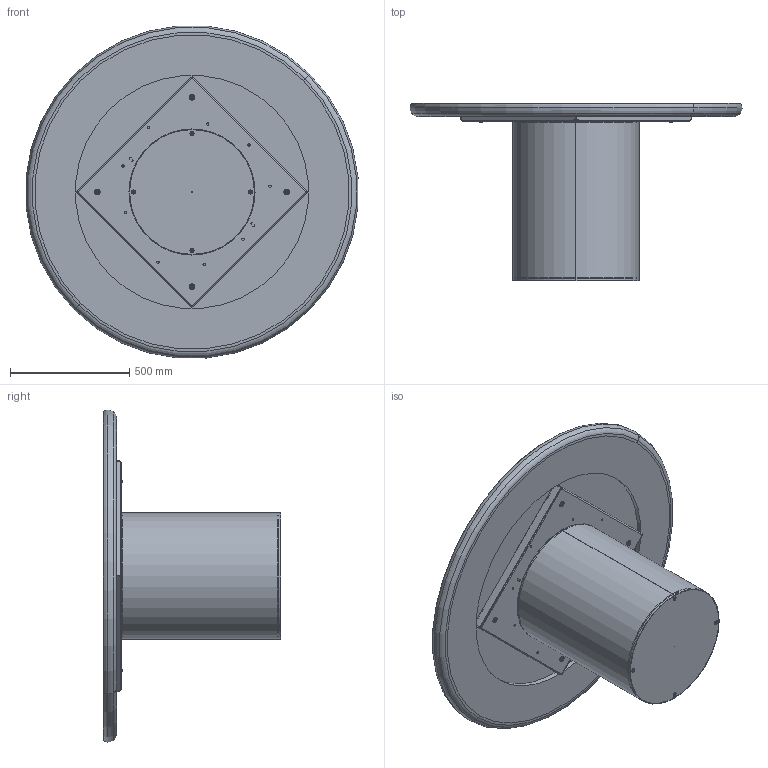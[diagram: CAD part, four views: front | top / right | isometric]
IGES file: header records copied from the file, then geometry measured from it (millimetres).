
Start section: SolidWorks IGES file using analytic representation for surfaces
Global section: file name: Y:\eforma\TECNICO\SOLIDWORKS\E-FORMA\1-TAVOLI\CILINDRO\02 parts\CI05K_Cilindro_d.140_King.IGS; native system: SolidWorks 2022; preprocessor: SolidWorks 2022; author: eforma.tech; date: 240801.145842; units: millimetre
Bounding box: 1394.67 x 746 x 1394.67 mm (x, y, z)
Volume: 76375762.7 mm3; surface area: 10439245.6 mm2
Topology: 32 solids, 32 shells, 1066 faces, 2576 edges, 1546 vertices
Faces by surface type: revolution 618, plane 448
